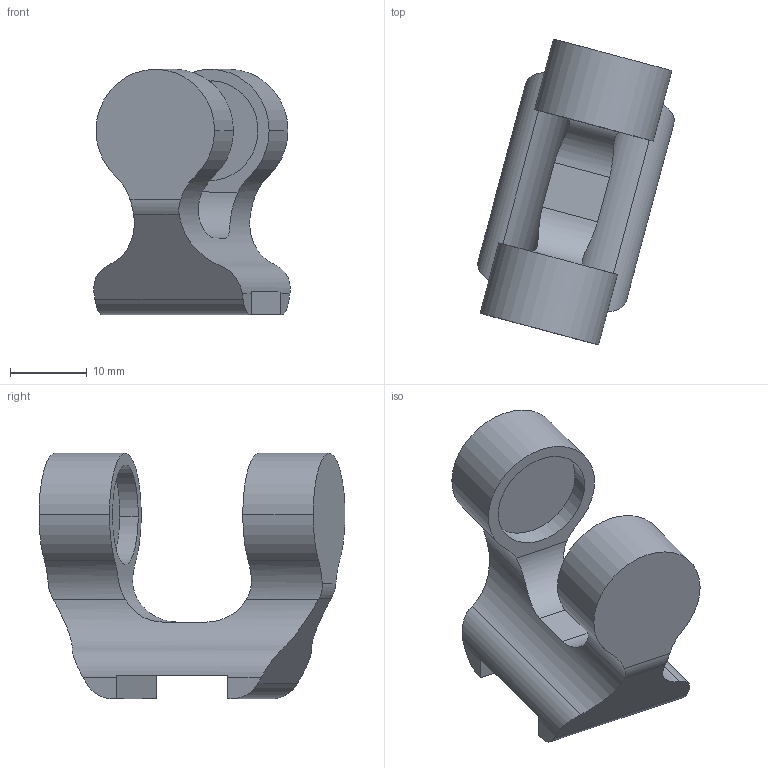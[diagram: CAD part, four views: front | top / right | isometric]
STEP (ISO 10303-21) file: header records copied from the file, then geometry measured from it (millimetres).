
FILE_DESCRIPTION (( 'STEP AP214' ), '1' );
FILE_NAME ('IRB365_1.5-1300_OmniCore_rev00_UNIVERSAL_JOINT_4_CAD.step', '2025-09-09T11:52:40', ( '' ), ( '' ), 'SwSTEP 2.0', 'SolidWorks 2024', '' );
FILE_SCHEMA (( 'AUTOMOTIVE_DESIGN' ));
Length unit declared in the file: millimetre
Products named in the file (1): IRB365_1.5-1300_OmniCore_rev00_UNIVERSAL_JOINT_4_CAD
Bounding box: 25.62 x 39.88 x 32 mm (x, y, z)
Volume: 7192.7 mm3; surface area: 3861.5 mm2
Topology: 1 solids, 1 shells, 43 faces, 114 edges, 76 vertices
Faces by surface type: cylinder 24, plane 19
Entity records: 1983 total; most frequent: CARTESIAN_POINT 423, ORIENTED_EDGE 228, DIRECTION 222, EDGE_CURVE 114, AXIS2_PLACEMENT_3D 84, VERTEX_POINT 76, LINE 54, VECTOR 54
